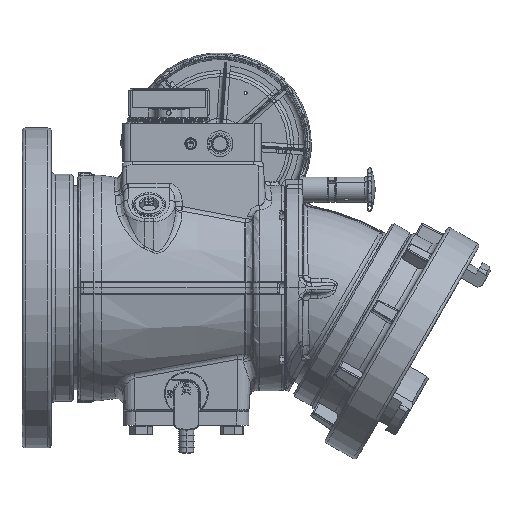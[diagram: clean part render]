
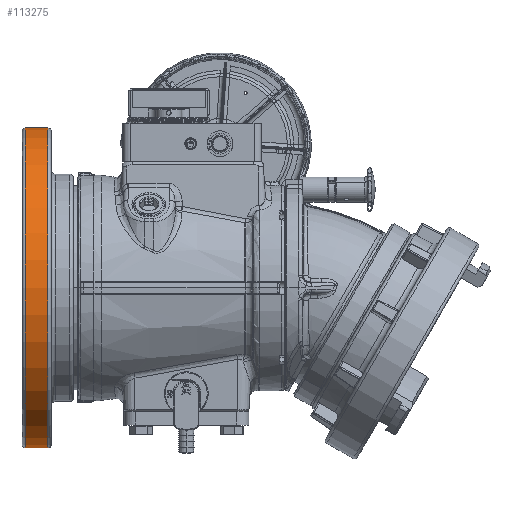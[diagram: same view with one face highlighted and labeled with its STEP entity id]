
A CAD part, top view. The second image highlights one B-rep face of the part: STEP entity #113275.
In plain terms, the highlighted cylindrical face has radius 138.43 mm (diameter 276.86 mm), a partial arc.
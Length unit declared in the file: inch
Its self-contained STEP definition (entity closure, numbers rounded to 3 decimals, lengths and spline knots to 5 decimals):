
#1767 = CARTESIAN_POINT ( 'NONE',  ( -6.0342, 5.00781, 0. ) ) ;
#1774 = DIRECTION ( 'NONE',  ( -1., 0., 0. ) ) ;
#1823 = CARTESIAN_POINT ( 'NONE',  ( -5.89635, -0.44219, 0. ) ) ;
#1824 = DIRECTION ( 'NONE',  ( 1., 0., 0. ) ) ;
#1825 = DIRECTION ( 'NONE',  ( 0., 1., 0. ) ) ;
#1917 = CARTESIAN_POINT ( 'NONE',  ( -6.0342, -5.89219, 0. ) ) ;
#1918 = DIRECTION ( 'NONE',  ( -1., 0., 0. ) ) ;
#1919 = CARTESIAN_POINT ( 'NONE',  ( -5.13415, -0.44219, 0. ) ) ;
#1920 = DIRECTION ( 'NONE',  ( -1., 0., 0. ) ) ;
#1921 = DIRECTION ( 'NONE',  ( 0., -1., 0. ) ) ;
#2438 = DIRECTION ( 'NONE',  ( 0., -1., 0. ) ) ;
#2443 = DIRECTION ( 'NONE',  ( -1., 0., 0. ) ) ;
#2447 = CARTESIAN_POINT ( 'NONE',  ( -6.0342, -0.44219, 0. ) ) ;
#11482 = ORIENTED_EDGE ( 'NONE', *, *, #68428, .T. ) ;
#11483 = ORIENTED_EDGE ( 'NONE', *, *, #68368, .T. ) ;
#11484 = ORIENTED_EDGE ( 'NONE', *, *, #68385, .T. ) ;
#11485 = ORIENTED_EDGE ( 'NONE', *, *, #68432, .F. ) ;
#61231 = AXIS2_PLACEMENT_3D ( 'NONE', #2447, #2443, #2438 ) ;
#67385 = LINE ( 'NONE', #1767, #67389 ) ;
#67389 = VECTOR ( 'NONE', #1774, 39.37008 ) ;
#67395 = CIRCLE ( 'NONE', #86440, 5.45 ) ;
#67427 = LINE ( 'NONE', #1917, #67437 ) ;
#67431 = CIRCLE ( 'NONE', #86454, 5.45 ) ;
#67437 = VECTOR ( 'NONE', #1918, 39.37008 ) ;
#68368 = EDGE_CURVE ( 'NONE', #79909, #79910, #67385, .T. ) ;
#68385 = EDGE_CURVE ( 'NONE', #79910, #79832, #67395, .T. ) ;
#68395 = FACE_OUTER_BOUND ( 'NONE', #123189, .T. ) ;
#68405 = CYLINDRICAL_SURFACE ( 'NONE', #61231, 5.45 ) ;
#68428 = EDGE_CURVE ( 'NONE', #79856, #79909, #67431, .T. ) ;
#68432 = EDGE_CURVE ( 'NONE', #79856, #79832, #67427, .T. ) ;
#79832 = VERTEX_POINT ( 'NONE', #81554 ) ;
#79856 = VERTEX_POINT ( 'NONE', #81599 ) ;
#79909 = VERTEX_POINT ( 'NONE', #81697 ) ;
#79910 = VERTEX_POINT ( 'NONE', #81699 ) ;
#81554 = CARTESIAN_POINT ( 'NONE',  ( -5.89635, -5.89219, 0. ) ) ;
#81599 = CARTESIAN_POINT ( 'NONE',  ( -5.13415, -5.89219, 0. ) ) ;
#81697 = CARTESIAN_POINT ( 'NONE',  ( -5.13415, 5.00781, 0. ) ) ;
#81699 = CARTESIAN_POINT ( 'NONE',  ( -5.89635, 5.00781, 0. ) ) ;
#86440 = AXIS2_PLACEMENT_3D ( 'NONE', #1823, #1824, #1825 ) ;
#86454 = AXIS2_PLACEMENT_3D ( 'NONE', #1919, #1920, #1921 ) ;
#113275 = ADVANCED_FACE ( 'NONE', ( #68395 ), #68405, .T. ) ;
#123189 = EDGE_LOOP ( 'NONE', ( #11482, #11483, #11484, #11485 ) ) ;
